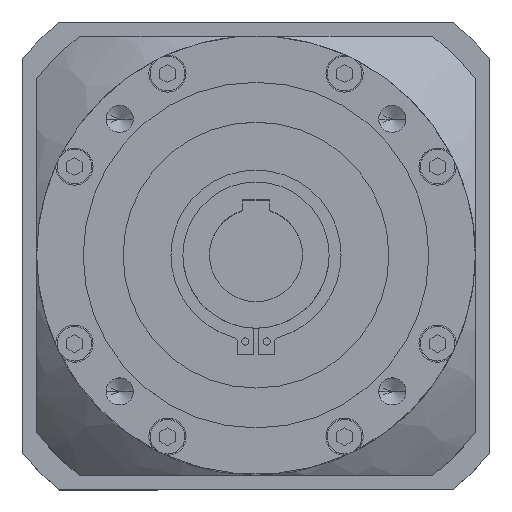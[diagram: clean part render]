
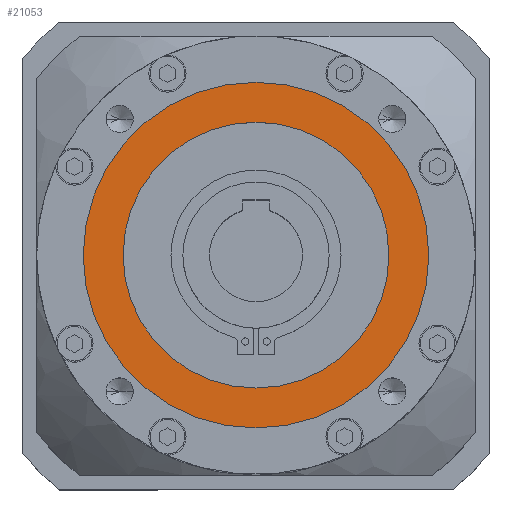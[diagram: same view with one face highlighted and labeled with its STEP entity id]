
A CAD part, top view. The second image highlights one B-rep face of the part: STEP entity #21053.
In plain terms, the highlighted planar face has unit normal (0, 0, 1).
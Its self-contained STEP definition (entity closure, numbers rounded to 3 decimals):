
#2225 = ORIENTED_EDGE ( 'NONE', *, *, #38813, .F. ) ;
#2730 = VERTEX_POINT ( 'NONE', #41144 ) ;
#4314 = AXIS2_PLACEMENT_3D ( 'NONE', #35736, #12241, #39710 ) ;
#4472 = FACE_BOUND ( 'NONE', #20886, .T. ) ;
#5423 = DIRECTION ( 'NONE',  ( 0., 0., -1. ) ) ;
#6543 = DIRECTION ( 'NONE',  ( 0., 0., 1. ) ) ;
#12241 = DIRECTION ( 'NONE',  ( 0., 0., -1. ) ) ;
#12372 = ORIENTED_EDGE ( 'NONE', *, *, #19266, .F. ) ;
#12952 = VERTEX_POINT ( 'NONE', #23047 ) ;
#13960 = ORIENTED_EDGE ( 'NONE', *, *, #14139, .F. ) ;
#14139 = EDGE_CURVE ( 'NONE', #46687, #12952, #18356, .T. ) ;
#16151 = AXIS2_PLACEMENT_3D ( 'NONE', #30061, #6543, #34002 ) ;
#16863 = EDGE_LOOP ( 'NONE', ( #12372, #35642 ) ) ;
#18063 = CARTESIAN_POINT ( 'NONE',  ( -65., 0., 0. ) ) ;
#18182 = CARTESIAN_POINT ( 'NONE',  ( 50., 0., 0. ) ) ;
#18356 = CIRCLE ( 'NONE', #16151, 50. ) ;
#18744 = AXIS2_PLACEMENT_3D ( 'NONE', #43734, #20243, #47649 ) ;
#18890 = DIRECTION ( 'NONE',  ( 0., 0., -1. ) ) ;
#19266 = EDGE_CURVE ( 'NONE', #2730, #43782, #40827, .T. ) ;
#19793 = CIRCLE ( 'NONE', #18744, 50. ) ;
#20243 = DIRECTION ( 'NONE',  ( 0., 0., 1. ) ) ;
#20886 = EDGE_LOOP ( 'NONE', ( #13960, #2225 ) ) ;
#21053 = ADVANCED_FACE ( 'NONE', ( #47419, #4472 ), #33804, .F. ) ;
#21398 = CIRCLE ( 'NONE', #42205, 65. ) ;
#23047 = CARTESIAN_POINT ( 'NONE',  ( -50., 0., 0. ) ) ;
#28951 = CARTESIAN_POINT ( 'NONE',  ( 0., 0., 0. ) ) ;
#30061 = CARTESIAN_POINT ( 'NONE',  ( 0., 0., 0. ) ) ;
#32885 = DIRECTION ( 'NONE',  ( 1., 0., 0. ) ) ;
#33804 = PLANE ( 'NONE',  #45792 ) ;
#34002 = DIRECTION ( 'NONE',  ( 1., 0., 0. ) ) ;
#35642 = ORIENTED_EDGE ( 'NONE', *, *, #42426, .F. ) ;
#35736 = CARTESIAN_POINT ( 'NONE',  ( 0., 0., 0. ) ) ;
#38813 = EDGE_CURVE ( 'NONE', #12952, #46687, #19793, .T. ) ;
#39710 = DIRECTION ( 'NONE',  ( 1., 0., 0. ) ) ;
#40827 = CIRCLE ( 'NONE', #4314, 65. ) ;
#41144 = CARTESIAN_POINT ( 'NONE',  ( 65., 0., 0. ) ) ;
#42205 = AXIS2_PLACEMENT_3D ( 'NONE', #28951, #5423, #32885 ) ;
#42426 = EDGE_CURVE ( 'NONE', #43782, #2730, #21398, .T. ) ;
#43734 = CARTESIAN_POINT ( 'NONE',  ( 0., 0., 0. ) ) ;
#43782 = VERTEX_POINT ( 'NONE', #18063 ) ;
#45277 = CARTESIAN_POINT ( 'NONE',  ( 0., 50., 0. ) ) ;
#45792 = AXIS2_PLACEMENT_3D ( 'NONE', #45277, #18890, #46321 ) ;
#46321 = DIRECTION ( 'NONE',  ( -1., 0., 0. ) ) ;
#46687 = VERTEX_POINT ( 'NONE', #18182 ) ;
#47419 = FACE_OUTER_BOUND ( 'NONE', #16863, .T. ) ;
#47649 = DIRECTION ( 'NONE',  ( 1., 0., 0. ) ) ;
